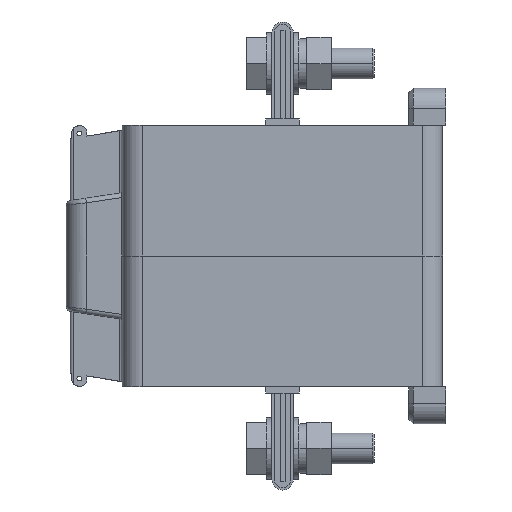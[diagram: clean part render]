
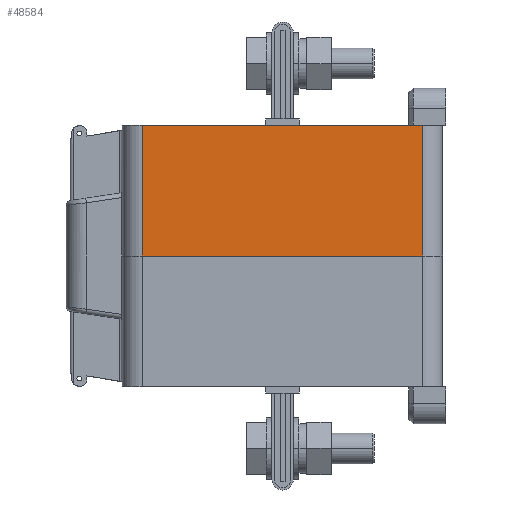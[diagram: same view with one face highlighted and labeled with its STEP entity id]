
A CAD part, left-side view. The second image highlights one B-rep face of the part: STEP entity #48584.
In plain terms, the highlighted planar face has unit normal (-1, 0, 0) as drawn and (1, 0, 0) by its records, which use the part's own axes.
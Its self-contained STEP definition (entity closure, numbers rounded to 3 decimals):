
#58 = CARTESIAN_POINT ( 'NONE',  ( 42.5, 104., 42.5 ) ) ;
#1203 = CARTESIAN_POINT ( 'NONE',  ( 42.5, 97.5, 42.5 ) ) ;
#1748 = VECTOR ( 'NONE', #20161, 1000. ) ;
#2313 = LINE ( 'NONE', #7282, #13218 ) ;
#3956 = LINE ( 'NONE', #58, #45381 ) ;
#7170 = VERTEX_POINT ( 'NONE', #23297 ) ;
#7282 = CARTESIAN_POINT ( 'NONE',  ( 42.5, 104., 0. ) ) ;
#10774 = CARTESIAN_POINT ( 'NONE',  ( 42.5, 97.5, 0. ) ) ;
#10788 = CARTESIAN_POINT ( 'NONE',  ( 42.5, 97.5, 42.5 ) ) ;
#11555 = VECTOR ( 'NONE', #31222, 1000. ) ;
#13173 = CARTESIAN_POINT ( 'NONE',  ( 42.5, 104., 42.5 ) ) ;
#13218 = VECTOR ( 'NONE', #18309, 1000. ) ;
#13700 = FACE_OUTER_BOUND ( 'NONE', #30030, .T. ) ;
#14549 = ORIENTED_EDGE ( 'NONE', *, *, #43679, .T. ) ;
#18309 = DIRECTION ( 'NONE',  ( 0., 1., 0. ) ) ;
#18878 = VERTEX_POINT ( 'NONE', #10774 ) ;
#20161 = DIRECTION ( 'NONE',  ( 0., 0., -1. ) ) ;
#20707 = EDGE_CURVE ( 'NONE', #7170, #26458, #3956, .T. ) ;
#23297 = CARTESIAN_POINT ( 'NONE',  ( 42.5, 6.5, 42.5 ) ) ;
#25078 = LINE ( 'NONE', #1203, #11555 ) ;
#25630 = VERTEX_POINT ( 'NONE', #28413 ) ;
#26458 = VERTEX_POINT ( 'NONE', #10788 ) ;
#27210 = ORIENTED_EDGE ( 'NONE', *, *, #51573, .T. ) ;
#28262 = ORIENTED_EDGE ( 'NONE', *, *, #35669, .T. ) ;
#28413 = CARTESIAN_POINT ( 'NONE',  ( 42.5, 6.5, 0. ) ) ;
#30030 = EDGE_LOOP ( 'NONE', ( #31437, #14549, #28262, #27210 ) ) ;
#31222 = DIRECTION ( 'NONE',  ( 0., 0., 1. ) ) ;
#31437 = ORIENTED_EDGE ( 'NONE', *, *, #20707, .F. ) ;
#35669 = EDGE_CURVE ( 'NONE', #25630, #18878, #2313, .T. ) ;
#36454 = CARTESIAN_POINT ( 'NONE',  ( 42.5, 6.5, 42.5 ) ) ;
#36806 = DIRECTION ( 'NONE',  ( -1., 0., 0. ) ) ;
#37069 = DIRECTION ( 'NONE',  ( 0., -1., 0. ) ) ;
#41162 = LINE ( 'NONE', #36454, #1748 ) ;
#42381 = AXIS2_PLACEMENT_3D ( 'NONE', #13173, #36806, #37069 ) ;
#43679 = EDGE_CURVE ( 'NONE', #7170, #25630, #41162, .T. ) ;
#45381 = VECTOR ( 'NONE', #49550, 1000. ) ;
#48584 = ADVANCED_FACE ( 'NONE', ( #13700 ), #49648, .F. ) ;
#49550 = DIRECTION ( 'NONE',  ( 0., 1., 0. ) ) ;
#49648 = PLANE ( 'NONE',  #42381 ) ;
#51573 = EDGE_CURVE ( 'NONE', #18878, #26458, #25078, .T. ) ;
